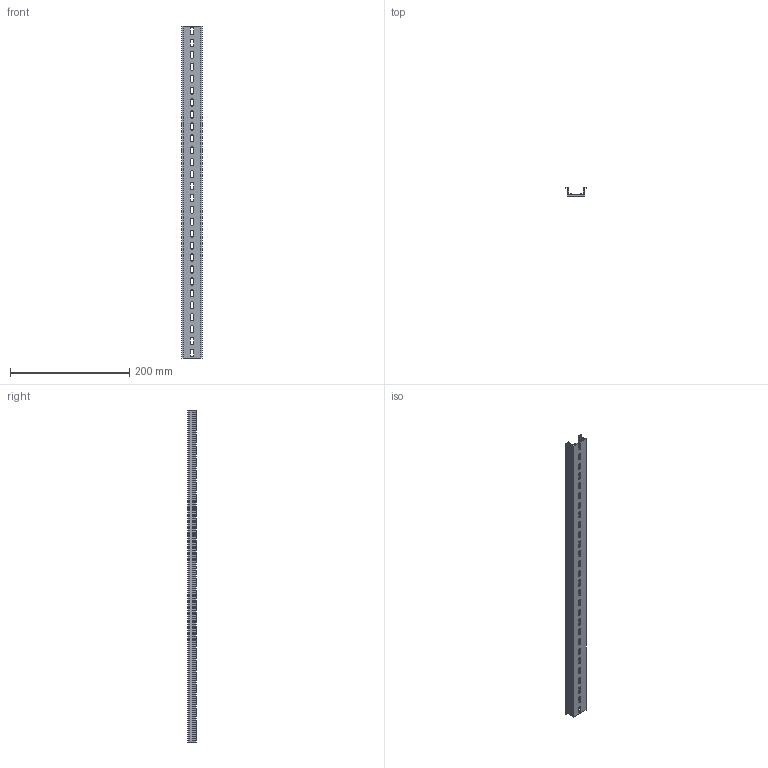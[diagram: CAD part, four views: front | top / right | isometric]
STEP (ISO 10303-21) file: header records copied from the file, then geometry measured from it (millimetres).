
FILE_DESCRIPTION(/* description */ (''),/* implementation_level */ '2;1');
FILE_NAME(/* name */ '22648-(TKB KD-28)HP 3D.stp',/* time_stamp */ '2024-12-05T14:08:45+09:00',/* author */ ('usercadg104'),/* organization */ (''),/* preprocessor_version */ 'ST-DEVELOPER v19.2',/* originating_system */ 'Autodesk Inventor 2023',/* authorisation */ '');
FILE_SCHEMA (('CONFIG_CONTROL_DESIGN'));
Length unit declared in the file: millimetre
Products named in the file (1): TKB KD-3(林)
Bounding box: 35 x 15 x 557 mm (x, y, z)
Volume: 65163.2 mm3; surface area: 75321.3 mm2
Topology: 1 solids, 1 shells, 152 faces, 450 edges, 300 vertices
Faces by surface type: plane 92, cylinder 60
Entity records: 5249 total; most frequent: CARTESIAN_POINT 903, ORIENTED_EDGE 900, DIRECTION 876, EDGE_CURVE 450, LINE 330, VECTOR 330, VERTEX_POINT 300, AXIS2_PLACEMENT_3D 273
